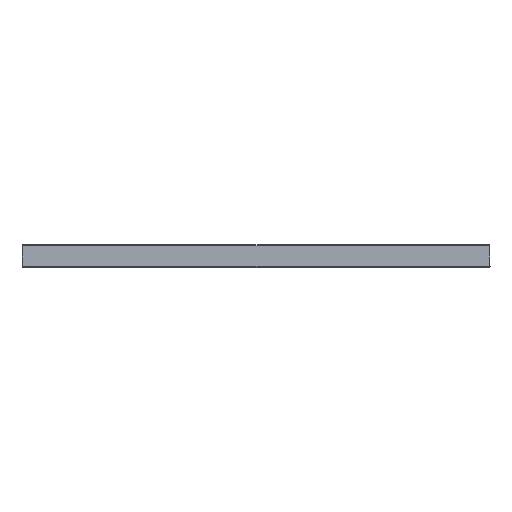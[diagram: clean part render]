
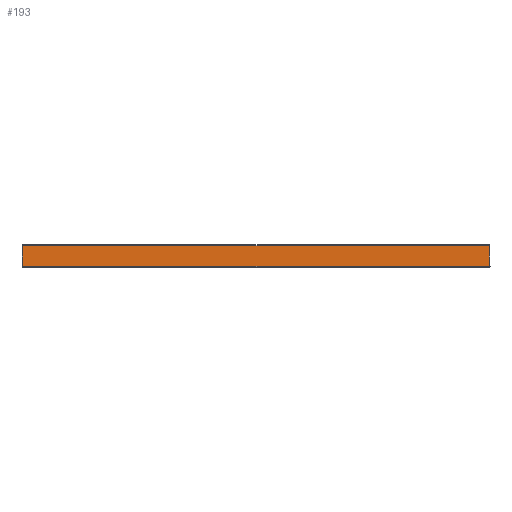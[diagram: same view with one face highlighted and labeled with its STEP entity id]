
A CAD part, front view. The second image highlights one B-rep face of the part: STEP entity #193.
In plain terms, the highlighted planar face has unit normal (0, -1, 0.009).
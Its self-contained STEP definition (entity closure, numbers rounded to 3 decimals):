
#193=ADVANCED_FACE('',(#314),#1970,.T.);
#314=FACE_OUTER_BOUND('',#486,.T.);
#486=EDGE_LOOP('',(#1019,#1020,#1021,#1022));
#1019=ORIENTED_EDGE('',*,*,#1409,.T.);
#1020=ORIENTED_EDGE('',*,*,#1391,.T.);
#1021=ORIENTED_EDGE('',*,*,#1411,.T.);
#1022=ORIENTED_EDGE('',*,*,#1392,.T.);
#1391=EDGE_CURVE('',#1926,#1927,#1517,.T.);
#1392=EDGE_CURVE('',#1928,#1925,#1518,.T.);
#1409=EDGE_CURVE('',#1925,#1926,#1534,.T.);
#1411=EDGE_CURVE('',#1927,#1928,#1535,.T.);
#1517=B_SPLINE_CURVE_WITH_KNOTS('',1,(#26076,#26077),.UNSPECIFIED.,.F.,
 .F.,(2,2),(0.,697.441),.UNSPECIFIED.);
#1518=B_SPLINE_CURVE_WITH_KNOTS('',1,(#26078,#26079),.UNSPECIFIED.,.F.,
 .F.,(2,2),(0.,697.982),.UNSPECIFIED.);
#1534=B_SPLINE_CURVE_WITH_KNOTS('',1,(#26261,#26262),.UNSPECIFIED.,.F.,
 .F.,(2,2),(-31.002,0.),.UNSPECIFIED.);
#1535=B_SPLINE_CURVE_WITH_KNOTS('',1,(#26266,#26267),.UNSPECIFIED.,.F.,
 .F.,(2,2),(-31.002,0.),.UNSPECIFIED.);
#1925=VERTEX_POINT('',#25352);
#1926=VERTEX_POINT('',#25353);
#1927=VERTEX_POINT('',#25354);
#1928=VERTEX_POINT('',#25355);
#1970=PLANE('',#2220);
#2220=AXIS2_PLACEMENT_3D('',#4005,#2323,$);
#2323=DIRECTION('',(0.,-1.,0.009));
#4005=CARTESIAN_POINT('',(1.009,-399.721,29.009));
#25352=CARTESIAN_POINT('',(698.991,-399.991,-1.991));
#25353=CARTESIAN_POINT('',(698.721,-399.721,29.009));
#25354=CARTESIAN_POINT('',(1.279,-399.721,29.009));
#25355=CARTESIAN_POINT('',(1.009,-399.991,-1.991));
#26076=CARTESIAN_POINT('',(698.721,-399.721,29.009));
#26077=CARTESIAN_POINT('',(1.279,-399.721,29.009));
#26078=CARTESIAN_POINT('',(1.009,-399.991,-1.991));
#26079=CARTESIAN_POINT('',(698.991,-399.991,-1.991));
#26261=CARTESIAN_POINT('',(698.991,-399.991,-1.991));
#26262=CARTESIAN_POINT('',(698.721,-399.721,29.009));
#26266=CARTESIAN_POINT('',(1.279,-399.721,29.009));
#26267=CARTESIAN_POINT('',(1.009,-399.991,-1.991));
